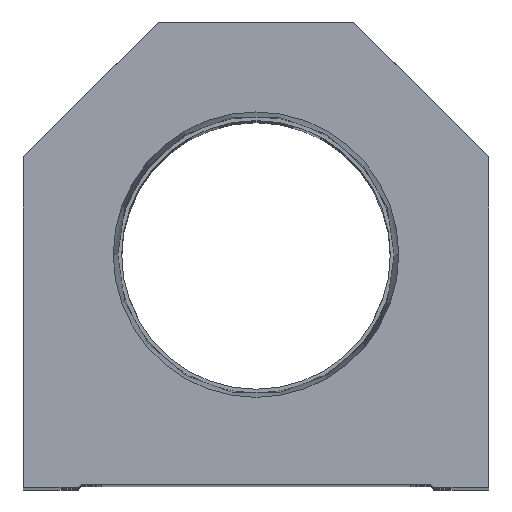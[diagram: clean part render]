
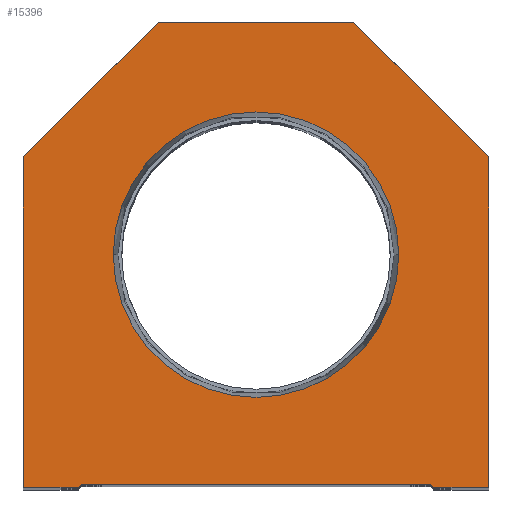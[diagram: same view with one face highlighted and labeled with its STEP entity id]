
A CAD part, top view. The second image highlights one B-rep face of the part: STEP entity #15396.
In plain terms, the highlighted planar face has unit normal (0, 0, 1).
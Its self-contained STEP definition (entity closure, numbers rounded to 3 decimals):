
#206 = ORIENTED_EDGE ( 'NONE', *, *, #21044, .T. ) ;
#320 = FACE_OUTER_BOUND ( 'NONE', #7806, .T. ) ;
#1175 = CARTESIAN_POINT ( 'NONE',  ( 38.1, 54.1, 0. ) ) ;
#1178 = DIRECTION ( 'NONE',  ( 0., -1., 0. ) ) ;
#1241 = EDGE_CURVE ( 'NONE', #4535, #12592, #4553, .T. ) ;
#1265 = CIRCLE ( 'NONE', #13747, 23.374 ) ;
#1296 = LINE ( 'NONE', #13587, #20611 ) ;
#1409 = LINE ( 'NONE', #18729, #17755 ) ;
#1645 = ORIENTED_EDGE ( 'NONE', *, *, #19023, .T. ) ;
#3016 = VERTEX_POINT ( 'NONE', #20350 ) ;
#3023 = LINE ( 'NONE', #1175, #8088 ) ;
#3057 = VERTEX_POINT ( 'NONE', #12459 ) ;
#3162 = EDGE_CURVE ( 'NONE', #3679, #3057, #21156, .T. ) ;
#3440 = CARTESIAN_POINT ( 'NONE',  ( 29.1, 0., 0. ) ) ;
#3549 = LINE ( 'NONE', #9021, #12926 ) ;
#3600 = VECTOR ( 'NONE', #13125, 1000. ) ;
#3679 = VERTEX_POINT ( 'NONE', #3440 ) ;
#3900 = DIRECTION ( 'NONE',  ( 1., 0., 0. ) ) ;
#4337 = DIRECTION ( 'NONE',  ( -1., 0., 0. ) ) ;
#4475 = CARTESIAN_POINT ( 'NONE',  ( -29.1, 0., 0. ) ) ;
#4535 = VERTEX_POINT ( 'NONE', #5711 ) ;
#4553 = LINE ( 'NONE', #16602, #13834 ) ;
#4865 = DIRECTION ( 'NONE',  ( 0.707, -0.707, 0. ) ) ;
#5108 = VERTEX_POINT ( 'NONE', #14806 ) ;
#5438 = DIRECTION ( 'NONE',  ( 1., 0., 0. ) ) ;
#5554 = CARTESIAN_POINT ( 'NONE',  ( -23.374, 38.1, 0. ) ) ;
#5711 = CARTESIAN_POINT ( 'NONE',  ( 16., 76.2, 0. ) ) ;
#5808 = ORIENTED_EDGE ( 'NONE', *, *, #17639, .T. ) ;
#6128 = CARTESIAN_POINT ( 'NONE',  ( -38.1, 54.1, 0. ) ) ;
#6646 = EDGE_CURVE ( 'NONE', #3016, #3679, #1296, .T. ) ;
#6784 = CARTESIAN_POINT ( 'NONE',  ( -16., 76.2, 0. ) ) ;
#7200 = ORIENTED_EDGE ( 'NONE', *, *, #10396, .F. ) ;
#7248 = VERTEX_POINT ( 'NONE', #4475 ) ;
#7806 = EDGE_LOOP ( 'NONE', ( #13086, #1645, #9992, #19579, #14955, #14339, #206, #10275, #5808, #22048 ) ) ;
#8088 = VECTOR ( 'NONE', #10096, 1000. ) ;
#8331 = AXIS2_PLACEMENT_3D ( 'NONE', #12353, #11275, #14850 ) ;
#8638 = CARTESIAN_POINT ( 'NONE',  ( 23.374, 38.1, 0. ) ) ;
#8639 = EDGE_CURVE ( 'NONE', #11469, #7248, #3549, .T. ) ;
#9021 = CARTESIAN_POINT ( 'NONE',  ( -28.6, 0., 0. ) ) ;
#9992 = ORIENTED_EDGE ( 'NONE', *, *, #20823, .T. ) ;
#10036 = AXIS2_PLACEMENT_3D ( 'NONE', #12621, #18112, #11223 ) ;
#10096 = DIRECTION ( 'NONE',  ( -0.707, 0.707, 0. ) ) ;
#10275 = ORIENTED_EDGE ( 'NONE', *, *, #1241, .T. ) ;
#10396 = EDGE_CURVE ( 'NONE', #12481, #18689, #1265, .T. ) ;
#10578 = DIRECTION ( 'NONE',  ( 0., 1., 0. ) ) ;
#10718 = EDGE_CURVE ( 'NONE', #18689, #12481, #11161, .T. ) ;
#11053 = EDGE_CURVE ( 'NONE', #12760, #11469, #1409, .T. ) ;
#11161 = CIRCLE ( 'NONE', #10036, 23.374 ) ;
#11223 = DIRECTION ( 'NONE',  ( 1., 0., 0. ) ) ;
#11275 = DIRECTION ( 'NONE',  ( 0., 0., 1. ) ) ;
#11469 = VERTEX_POINT ( 'NONE', #22526 ) ;
#12353 = CARTESIAN_POINT ( 'NONE',  ( 0., 0., 0. ) ) ;
#12354 = EDGE_CURVE ( 'NONE', #3057, #14029, #13934, .T. ) ;
#12426 = CARTESIAN_POINT ( 'NONE',  ( 28.6, 0., 0. ) ) ;
#12459 = CARTESIAN_POINT ( 'NONE',  ( 38.1, 0., 0. ) ) ;
#12481 = VERTEX_POINT ( 'NONE', #5554 ) ;
#12592 = VERTEX_POINT ( 'NONE', #6784 ) ;
#12621 = CARTESIAN_POINT ( 'NONE',  ( 0., 38.1, 0. ) ) ;
#12760 = VERTEX_POINT ( 'NONE', #18124 ) ;
#12794 = VECTOR ( 'NONE', #5438, 1000. ) ;
#12926 = VECTOR ( 'NONE', #3900, 1000. ) ;
#13086 = ORIENTED_EDGE ( 'NONE', *, *, #8639, .T. ) ;
#13125 = DIRECTION ( 'NONE',  ( -0.707, -0.707, 0. ) ) ;
#13391 = CARTESIAN_POINT ( 'NONE',  ( -28.6, 0.5, 0. ) ) ;
#13456 = DIRECTION ( 'NONE',  ( 0., 0., 1. ) ) ;
#13587 = CARTESIAN_POINT ( 'NONE',  ( 14.55, 14.55, 0. ) ) ;
#13603 = DIRECTION ( 'NONE',  ( 0.707, 0.707, 0. ) ) ;
#13747 = AXIS2_PLACEMENT_3D ( 'NONE', #13799, #13456, #19060 ) ;
#13799 = CARTESIAN_POINT ( 'NONE',  ( 0., 38.1, 0. ) ) ;
#13834 = VECTOR ( 'NONE', #4337, 1000. ) ;
#13934 = LINE ( 'NONE', #17478, #17057 ) ;
#14029 = VERTEX_POINT ( 'NONE', #14047 ) ;
#14047 = CARTESIAN_POINT ( 'NONE',  ( 38.1, 54.1, 0. ) ) ;
#14339 = ORIENTED_EDGE ( 'NONE', *, *, #12354, .T. ) ;
#14457 = PLANE ( 'NONE',  #8331 ) ;
#14806 = CARTESIAN_POINT ( 'NONE',  ( -28.6, 0.5, 0. ) ) ;
#14850 = DIRECTION ( 'NONE',  ( 1., 0., 0. ) ) ;
#14955 = ORIENTED_EDGE ( 'NONE', *, *, #3162, .T. ) ;
#15100 = CARTESIAN_POINT ( 'NONE',  ( -14.55, 14.55, 0. ) ) ;
#15217 = LINE ( 'NONE', #15100, #16787 ) ;
#15311 = EDGE_LOOP ( 'NONE', ( #19223, #7200 ) ) ;
#15396 = ADVANCED_FACE ( 'NONE', ( #21841, #320 ), #14457, .T. ) ;
#16602 = CARTESIAN_POINT ( 'NONE',  ( 16., 76.2, 0. ) ) ;
#16692 = LINE ( 'NONE', #6128, #3600 ) ;
#16787 = VECTOR ( 'NONE', #13603, 1000. ) ;
#17057 = VECTOR ( 'NONE', #10578, 1000. ) ;
#17478 = CARTESIAN_POINT ( 'NONE',  ( 38.1, 0., 0. ) ) ;
#17639 = EDGE_CURVE ( 'NONE', #12592, #12760, #16692, .T. ) ;
#17755 = VECTOR ( 'NONE', #1178, 1000. ) ;
#18112 = DIRECTION ( 'NONE',  ( 0., 0., 1. ) ) ;
#18124 = CARTESIAN_POINT ( 'NONE',  ( -38.1, 54.1, 0. ) ) ;
#18433 = LINE ( 'NONE', #13391, #20520 ) ;
#18689 = VERTEX_POINT ( 'NONE', #8638 ) ;
#18729 = CARTESIAN_POINT ( 'NONE',  ( -38.1, 0., 0. ) ) ;
#19023 = EDGE_CURVE ( 'NONE', #7248, #5108, #15217, .T. ) ;
#19060 = DIRECTION ( 'NONE',  ( 1., 0., 0. ) ) ;
#19223 = ORIENTED_EDGE ( 'NONE', *, *, #10718, .F. ) ;
#19579 = ORIENTED_EDGE ( 'NONE', *, *, #6646, .T. ) ;
#20350 = CARTESIAN_POINT ( 'NONE',  ( 28.6, 0.5, 0. ) ) ;
#20520 = VECTOR ( 'NONE', #22001, 1000. ) ;
#20611 = VECTOR ( 'NONE', #4865, 1000. ) ;
#20823 = EDGE_CURVE ( 'NONE', #5108, #3016, #18433, .T. ) ;
#21044 = EDGE_CURVE ( 'NONE', #14029, #4535, #3023, .T. ) ;
#21156 = LINE ( 'NONE', #12426, #12794 ) ;
#21841 = FACE_BOUND ( 'NONE', #15311, .T. ) ;
#22001 = DIRECTION ( 'NONE',  ( 1., 0., 0. ) ) ;
#22048 = ORIENTED_EDGE ( 'NONE', *, *, #11053, .T. ) ;
#22526 = CARTESIAN_POINT ( 'NONE',  ( -38.1, 0., 0. ) ) ;
